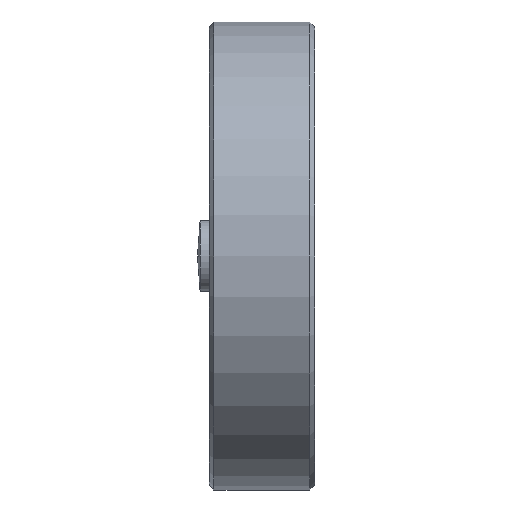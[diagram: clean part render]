
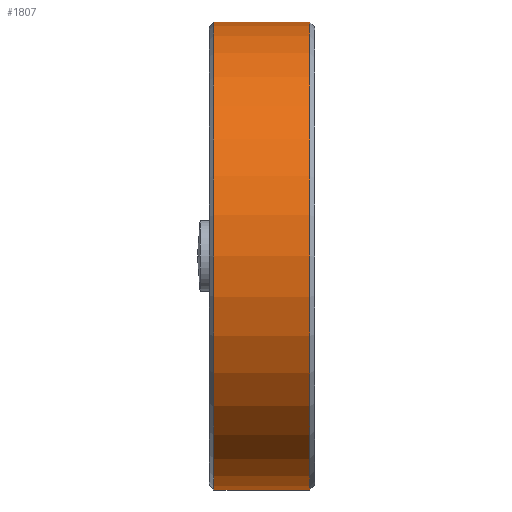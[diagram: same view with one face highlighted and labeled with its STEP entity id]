
A CAD part, left-side view. The second image highlights one B-rep face of the part: STEP entity #1807.
In plain terms, the highlighted cylindrical face has radius 10 mm (diameter 20 mm), a partial arc.
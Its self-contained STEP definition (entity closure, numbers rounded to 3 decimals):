
#376 = VECTOR ( 'NONE', #1864, 1000. ) ;
#1036 = CARTESIAN_POINT ( 'NONE',  ( 0., 2.5, -10. ) ) ;
#1064 = DIRECTION ( 'NONE',  ( 0., 0., -1. ) ) ;
#1807 = ADVANCED_FACE ( 'NONE', ( #13408 ), #7967, .T. ) ;
#1864 = DIRECTION ( 'NONE',  ( 0., 1., 0. ) ) ;
#2919 = LINE ( 'NONE', #1036, #376 ) ;
#3949 = DIRECTION ( 'NONE',  ( 0., 0., 1. ) ) ;
#4272 = EDGE_CURVE ( 'NONE', #6225, #7353, #2919, .T. ) ;
#4597 = CARTESIAN_POINT ( 'NONE',  ( 0., 1.8, -10. ) ) ;
#4751 = CARTESIAN_POINT ( 'NONE',  ( 0., 1.8, 0. ) ) ;
#4769 = CIRCLE ( 'NONE', #6557, 10. ) ;
#5059 = DIRECTION ( 'NONE',  ( 0., 1., 0. ) ) ;
#6225 = VERTEX_POINT ( 'NONE', #8106 ) ;
#6270 = CARTESIAN_POINT ( 'NONE',  ( 0., -2.3, 0. ) ) ;
#6557 = AXIS2_PLACEMENT_3D ( 'NONE', #4751, #12209, #8828 ) ;
#6726 = CARTESIAN_POINT ( 'NONE',  ( 0., 2.5, 10. ) ) ;
#7028 = EDGE_CURVE ( 'NONE', #13440, #7353, #4769, .T. ) ;
#7353 = VERTEX_POINT ( 'NONE', #4597 ) ;
#7737 = ORIENTED_EDGE ( 'NONE', *, *, #7028, .T. ) ;
#7827 = DIRECTION ( 'NONE',  ( 0., 1., 0. ) ) ;
#7893 = AXIS2_PLACEMENT_3D ( 'NONE', #12175, #5059, #3949 ) ;
#7967 = CYLINDRICAL_SURFACE ( 'NONE', #7893, 10. ) ;
#8106 = CARTESIAN_POINT ( 'NONE',  ( 0., -2.3, -10. ) ) ;
#8640 = CARTESIAN_POINT ( 'NONE',  ( 0., -2.3, 10. ) ) ;
#8790 = LINE ( 'NONE', #6726, #11466 ) ;
#8828 = DIRECTION ( 'NONE',  ( 0., 0., 1. ) ) ;
#8854 = EDGE_CURVE ( 'NONE', #6225, #13247, #10145, .T. ) ;
#8901 = CARTESIAN_POINT ( 'NONE',  ( 0., 1.8, 10. ) ) ;
#9371 = DIRECTION ( 'NONE',  ( 0., 1., 0. ) ) ;
#9387 = EDGE_CURVE ( 'NONE', #13247, #13440, #8790, .T. ) ;
#9565 = EDGE_LOOP ( 'NONE', ( #11496, #10532, #9637, #7737 ) ) ;
#9637 = ORIENTED_EDGE ( 'NONE', *, *, #9387, .T. ) ;
#10145 = CIRCLE ( 'NONE', #10366, 10. ) ;
#10366 = AXIS2_PLACEMENT_3D ( 'NONE', #6270, #9371, #1064 ) ;
#10532 = ORIENTED_EDGE ( 'NONE', *, *, #8854, .T. ) ;
#11466 = VECTOR ( 'NONE', #7827, 1000. ) ;
#11496 = ORIENTED_EDGE ( 'NONE', *, *, #4272, .F. ) ;
#12175 = CARTESIAN_POINT ( 'NONE',  ( 0., 2.5, 0. ) ) ;
#12209 = DIRECTION ( 'NONE',  ( 0., -1., 0. ) ) ;
#13247 = VERTEX_POINT ( 'NONE', #8640 ) ;
#13408 = FACE_OUTER_BOUND ( 'NONE', #9565, .T. ) ;
#13440 = VERTEX_POINT ( 'NONE', #8901 ) ;
